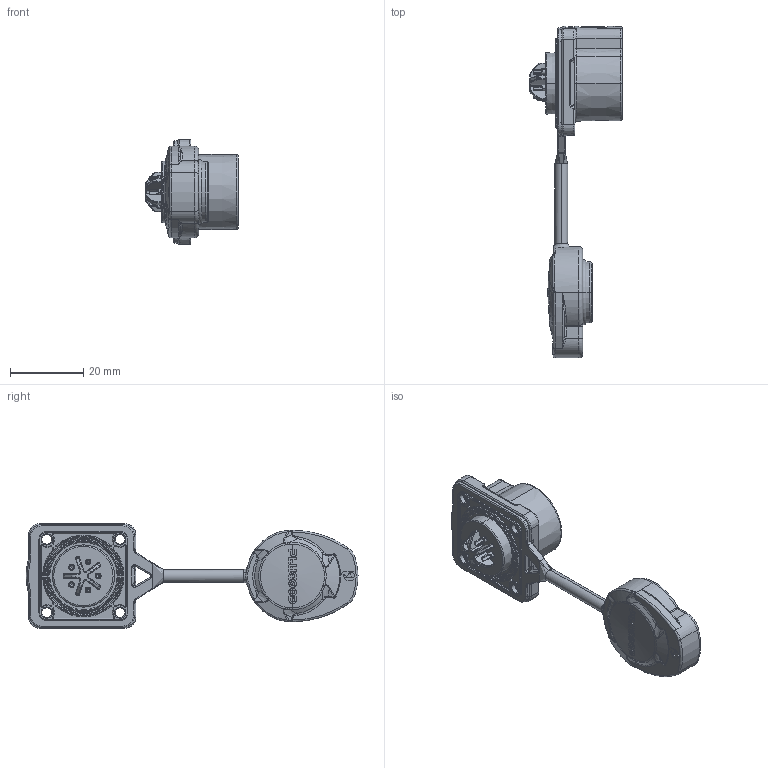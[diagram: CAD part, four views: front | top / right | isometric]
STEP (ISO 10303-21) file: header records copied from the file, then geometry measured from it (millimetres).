
FILE_DESCRIPTION (( 'STEP AP214' ), '1' );
FILE_NAME ('PLG16 5芯四孔法兰安装插座反装金属焊接-石头图.STEP', '2026-06-16T06:09:44', ( '微软用户' ), ( '微软中国' ), 'SwSTEP 2.0', 'SolidWorks 2024', '' );
FILE_SCHEMA (( 'AUTOMOTIVE_DESIGN' ));
Length unit declared in the file: millimetre
Products named in the file (1): PLG16 5芯四孔法兰安装插座反装金属焊接-石头图
Bounding box: 25.2 x 90.57 x 28.5 mm (x, y, z)
Volume: 10704.1 mm3; surface area: 10181.9 mm2
Topology: 1 solids, 1 shells, 1497 faces, 3798 edges, 2322 vertices
Faces by surface type: cylinder 479, plane 359, bspline 277, torus 263, cone 91, sphere 28
Entity records: 52676 total; most frequent: CARTESIAN_POINT 18740, ORIENTED_EDGE 7512, DIRECTION 6710, EDGE_CURVE 3756, AXIS2_PLACEMENT_3D 2686, VERTEX_POINT 2310, EDGE_LOOP 1566, FACE_OUTER_BOUND 1497
